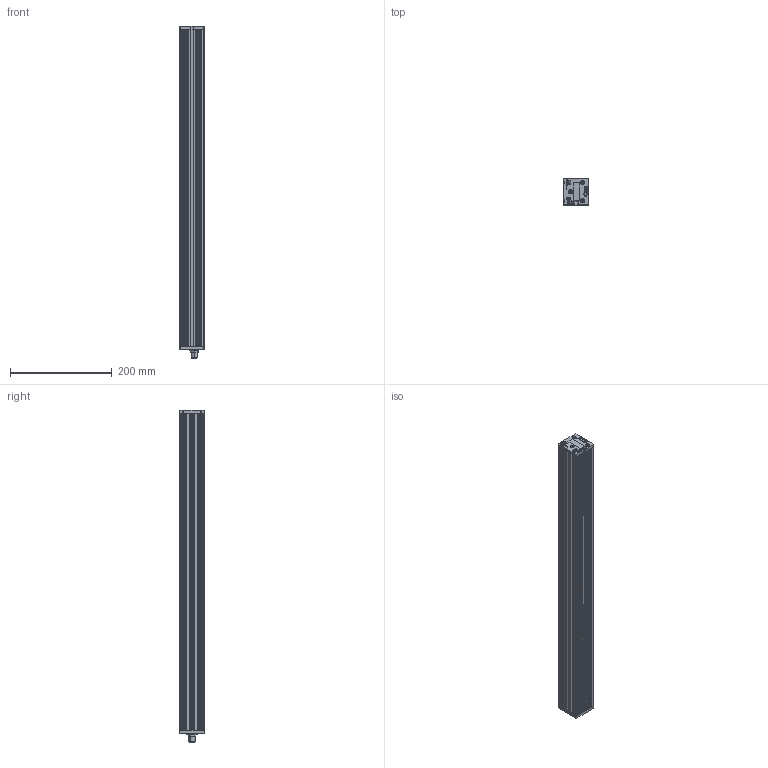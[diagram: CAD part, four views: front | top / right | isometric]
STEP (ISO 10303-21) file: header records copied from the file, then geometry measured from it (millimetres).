
FILE_DESCRIPTION (( 'STEP AP214' ), '1' );
FILE_NAME ('008822A.STEP', '2018-10-16T07:37:10', ( '' ), ( '' ), 'SwSTEP 2.0', 'SolidWorks 2018', '' );
FILE_SCHEMA (( 'AUTOMOTIVE_DESIGN' ));
Length unit declared in the file: millimetre
Products named in the file (8): 001161A623; 001596A623; 000959; 008769; 000096; 000605; 008822A; 000958
Assembly tree (15 placements, depth 2):
  008822A
    000958
    000096
    000959
    001596A623
    000605  x6
    008769  x4
    001161A623
Bounding box: 49 x 51.01 x 652.2 mm (x, y, z)
Volume: 672395.2 mm3; surface area: 533039.4 mm2
Topology: 17 solids, 17 shells, 3036 faces, 8235 edges, 5430 vertices
Faces by surface type: plane 1685, bspline 598, cylinder 549, cone 202, torus 2
Entity records: 132365 total; most frequent: CARTESIAN_POINT 61488, ORIENTED_EDGE 15488, DIRECTION 12237, EDGE_CURVE 7744, LINE 5203, VECTOR 5203, VERTEX_POINT 5141, AXIS2_PLACEMENT_3D 3517
